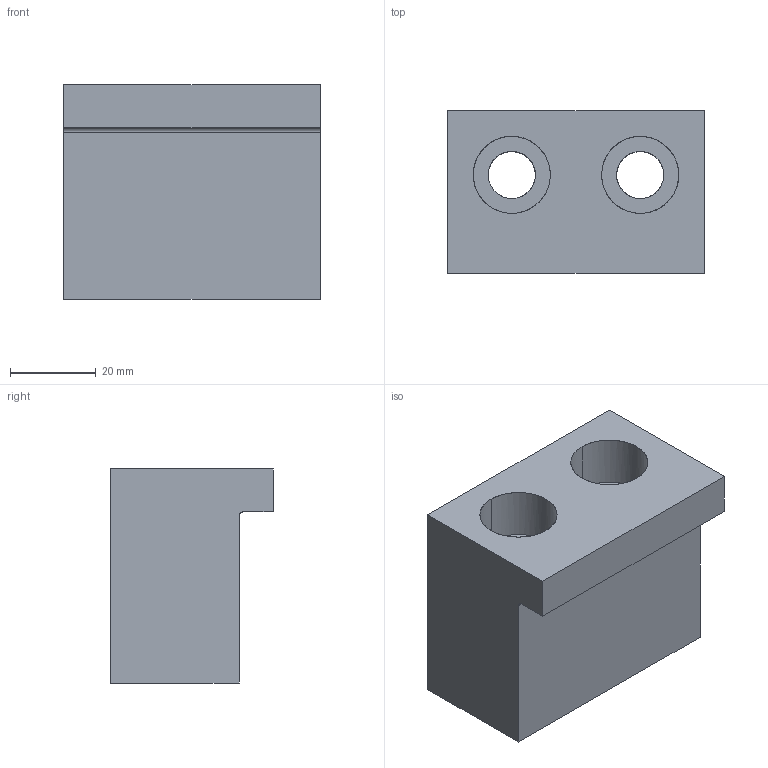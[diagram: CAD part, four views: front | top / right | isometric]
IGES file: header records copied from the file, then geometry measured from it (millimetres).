
Global section: file name: E:\UnigraphicsGraphicData\MISUMI_PRESS-PARTS\IGES\3d_bse60-40_01314_r00.igs; native system: NX V5.0; preprocessor: UGS NX IGES V5.0; author: MISUMI; date: 20110105.160141; units: millimetre
Bounding box: 60 x 38 x 50 mm (x, y, z)
Surface area: 17296.8 mm2 (no closed solid volume)
Topology: 0 solids, 0 shells, 19 faces, 142 edges, 142 vertices
Faces by surface type: bspline 19
